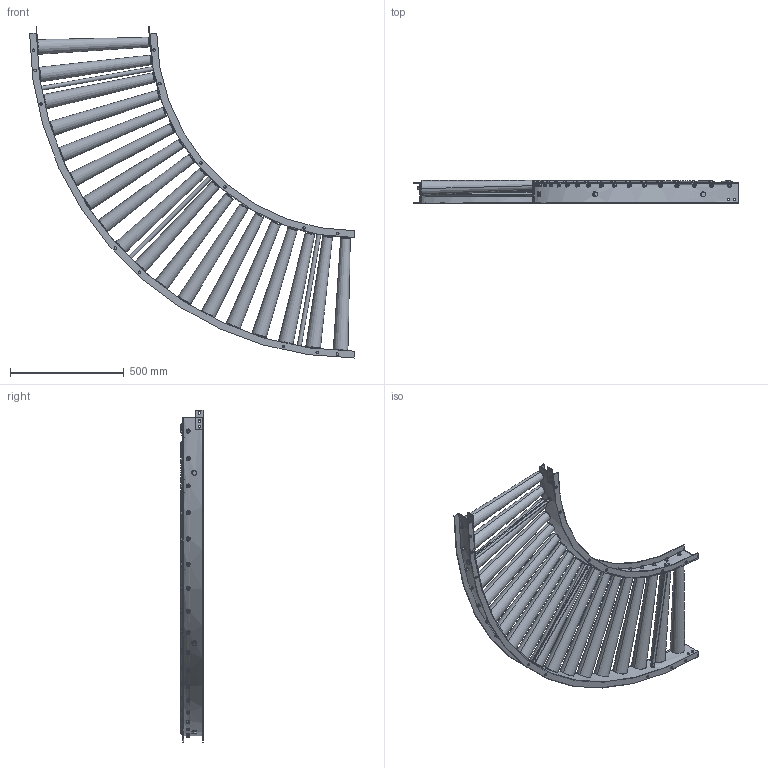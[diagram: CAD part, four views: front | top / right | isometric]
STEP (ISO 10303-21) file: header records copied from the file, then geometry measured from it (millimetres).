
FILE_DESCRIPTION (( 'STEP AP203' ), '1' );
FILE_NAME ('S-TC900A_C.step', '2024-03-02T05:10:32', ( '' ), ( '' ), 'SwSTEP 2.0', 'SolidWorks 2023', '' );
FILE_SCHEMA (( 'CONFIG_CONTROL_DESIGN' ));
Length unit declared in the file: millimetre
Products named in the file (1): S-TC900A_C
Bounding box: 1430 x 100.17 x 1461.56 mm (x, y, z)
Volume: 21620698.3 mm3; surface area: 3779671.2 mm2
Topology: 55 solids, 55 shells, 850 faces, 1986 edges, 1288 vertices
Faces by surface type: cylinder 388, plane 318, cone 72, torus 72
Entity records: 32149 total; most frequent: CARTESIAN_POINT 12071, DIRECTION 4256, ORIENTED_EDGE 3972, EDGE_CURVE 1986, AXIS2_PLACEMENT_3D 1751, VERTEX_POINT 1288, EDGE_LOOP 1110, CIRCLE 900
